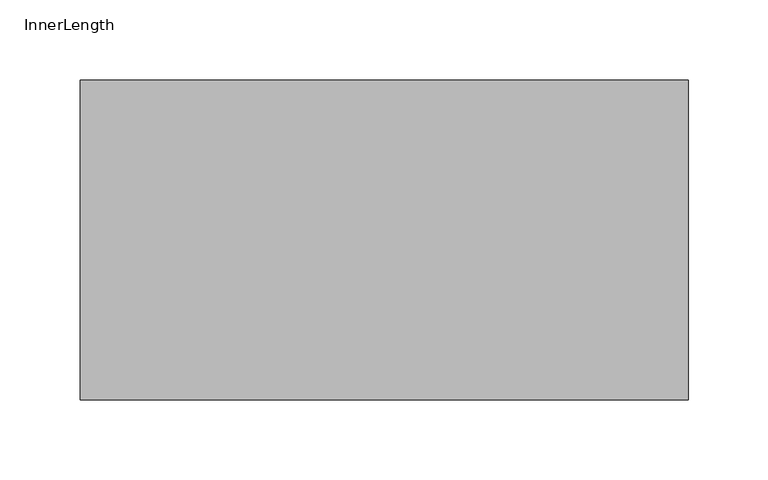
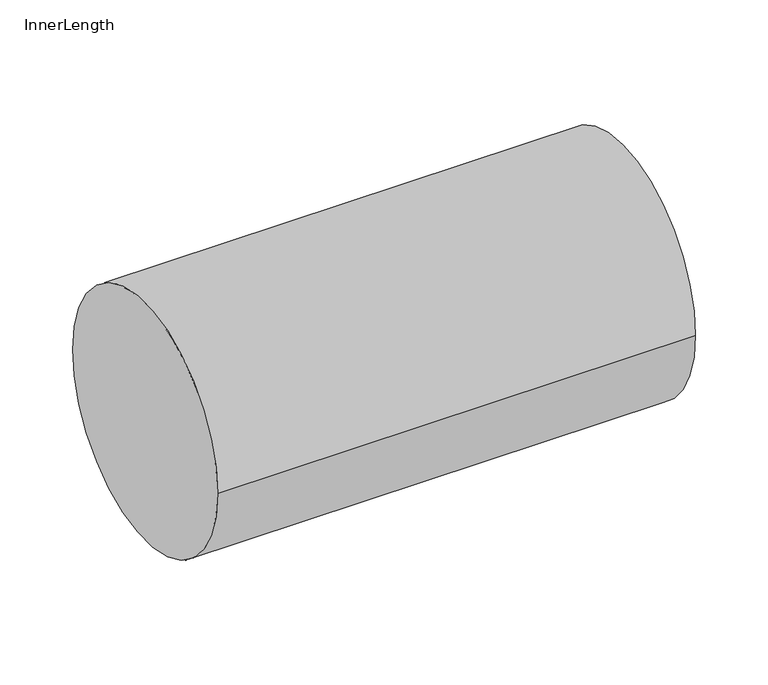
"""IFC4 building model written with IfcOpenShell, lengths in millimetres: pipe fitting geometry, CADS_Jeremias_InnerLength : InnerLength."""

from ifc_helpers import new_model, si_unit, point, frame, origin, origin_2d, place, context, project, spatial, circle_curve, trimmed, segment, composite_curve, outline, extrude, source, transform, mapped, element, save


def innerlength_2873572f(model_context):
    return source(origin(), model_context, "Body", "SweptSolid", [
        extrude(outline(composite_curve([segment(trimmed(circle_curve(origin_2d(), 100.0), [point((-100.0, 0.0))], [point((100.0, 0.0))], False, "CARTESIAN"), True, "CONTINUOUS"), segment(trimmed(circle_curve(origin_2d(), 100.0), [point((100.0, 0.0))], [point((-100.0, 0.0))], False, "CARTESIAN"), True, "CONTINUOUS")], self_intersect=False)), frame((0.0, 0.0, 0.0), z_axis=(1.0, 0.0, 0.0), x_axis=(0.0, 1.0, 0.0)), (0.0, 0.0, 1.0), 380.0),
    ])


if __name__ == "__main__":
    model = new_model("IFC4")
    model_context = context("Model", 3, world=origin())
    ifc_project = project(units=[si_unit("LENGTHUNIT", "METRE", prefix="MILLI")], contexts=[model_context])
    site = spatial("IfcSite", under=ifc_project)
    building = spatial("IfcBuilding", under=site)
    placement = place(None, origin())
    innerlength_shape = innerlength_2873572f(model_context)
    element("IfcPipeFitting", 1, ObjectType="CADS_Jeremias_InnerLength : InnerLength", at=placement, inside=building, context=model_context, shape_type="MappedRepresentation", body=[
        mapped(innerlength_shape, transform((0.0, 0.0, 0.0), x_axis=(1.0, 0.0, 0.0), y_axis=(0.0, 1.0, 0.0), z_axis=(0.0, 0.0, 1.0))),
    ])
    save(model, "model.ifc")
